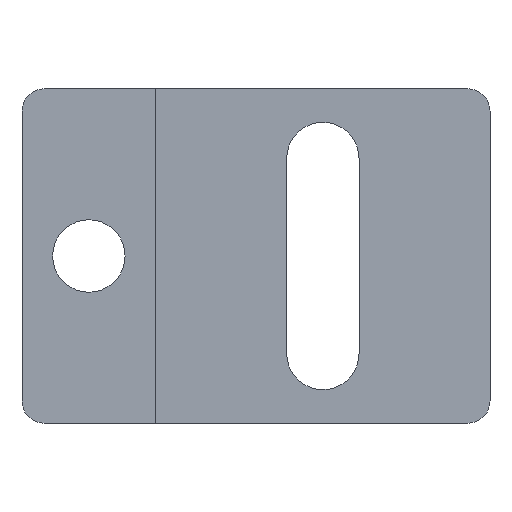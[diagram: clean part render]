
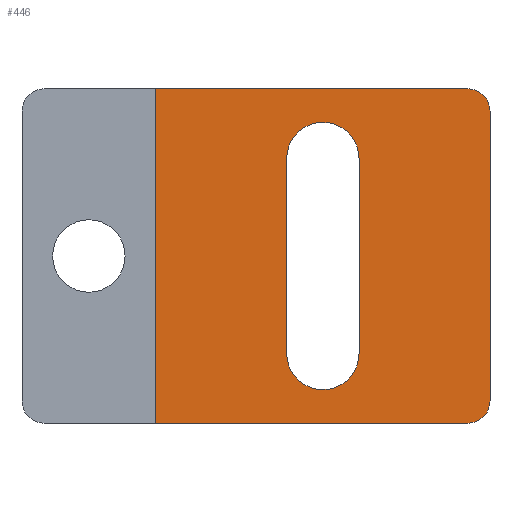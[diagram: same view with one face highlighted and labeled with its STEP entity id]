
A CAD part, front view. The second image highlights one B-rep face of the part: STEP entity #446.
In plain terms, the highlighted planar face has unit normal (0, -1, 0).
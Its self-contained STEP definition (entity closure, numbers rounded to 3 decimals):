
#95=CARTESIAN_POINT('',(27.,7.,-8.75));
#96=DIRECTION('',(0.,1.,0.));
#97=DIRECTION('',(1.,0.,0.));
#98=AXIS2_PLACEMENT_3D('',#95,#96,#97);
#100=DIRECTION('',(0.,0.,-1.));
#101=VECTOR('',#100,17.5);
#102=CARTESIAN_POINT('',(30.25,7.,8.75));
#103=LINE('',#102,#101);
#104=CARTESIAN_POINT('',(27.,7.,8.75));
#105=DIRECTION('',(0.,1.,0.));
#106=DIRECTION('',(-1.,0.,0.));
#107=AXIS2_PLACEMENT_3D('',#104,#105,#106);
#109=DIRECTION('',(0.,0.,1.));
#110=VECTOR('',#109,17.5);
#111=CARTESIAN_POINT('',(23.75,7.,-8.75));
#112=LINE('',#111,#110);
#126=CARTESIAN_POINT('',(40.,7.,13.));
#127=DIRECTION('',(0.,-1.,0.));
#128=DIRECTION('',(1.,0.,0.));
#129=AXIS2_PLACEMENT_3D('',#126,#127,#128);
#131=DIRECTION('',(-1.,0.,0.));
#132=VECTOR('',#131,28.);
#133=CARTESIAN_POINT('',(40.,7.,15.));
#134=LINE('',#133,#132);
#139=DIRECTION('',(0.,0.,-1.));
#140=VECTOR('',#139,30.);
#141=CARTESIAN_POINT('',(12.,7.,15.));
#142=LINE('',#141,#140);
#147=DIRECTION('',(-1.,0.,0.));
#148=VECTOR('',#147,28.);
#149=CARTESIAN_POINT('',(40.,7.,-15.));
#150=LINE('',#149,#148);
#164=CARTESIAN_POINT('',(40.,7.,-13.));
#165=DIRECTION('',(0.,-1.,0.));
#166=DIRECTION('',(0.,0.,-1.));
#167=AXIS2_PLACEMENT_3D('',#164,#165,#166);
#169=DIRECTION('',(0.,0.,-1.));
#170=VECTOR('',#169,26.);
#171=CARTESIAN_POINT('',(42.,7.,13.));
#172=LINE('',#171,#170);
#213=CARTESIAN_POINT('',(12.,7.,15.));
#214=VERTEX_POINT('',#213);
#215=CARTESIAN_POINT('',(12.,7.,-15.));
#216=VERTEX_POINT('',#215);
#233=CARTESIAN_POINT('',(30.25,7.,-8.75));
#234=CARTESIAN_POINT('',(23.75,7.,-8.75));
#235=VERTEX_POINT('',#233);
#236=VERTEX_POINT('',#234);
#237=CARTESIAN_POINT('',(23.75,7.,8.75));
#238=VERTEX_POINT('',#237);
#239=CARTESIAN_POINT('',(30.25,7.,8.75));
#240=VERTEX_POINT('',#239);
#242=CARTESIAN_POINT('',(40.,7.,15.));
#244=VERTEX_POINT('',#242);
#247=CARTESIAN_POINT('',(42.,7.,13.));
#248=VERTEX_POINT('',#247);
#250=CARTESIAN_POINT('',(42.,7.,-13.));
#252=VERTEX_POINT('',#250);
#255=CARTESIAN_POINT('',(40.,7.,-15.));
#256=VERTEX_POINT('',#255);
#421=CARTESIAN_POINT('',(42.,7.,15.));
#422=DIRECTION('',(0.,1.,0.));
#423=DIRECTION('',(-1.,0.,0.));
#424=AXIS2_PLACEMENT_3D('',#421,#422,#423);
#425=PLANE('',#424);
#427=ORIENTED_EDGE('',*,*,#426,.F.);
#429=ORIENTED_EDGE('',*,*,#428,.T.);
#431=ORIENTED_EDGE('',*,*,#430,.F.);
#433=ORIENTED_EDGE('',*,*,#432,.T.);
#435=ORIENTED_EDGE('',*,*,#434,.F.);
#437=ORIENTED_EDGE('',*,*,#436,.F.);
#438=EDGE_LOOP('',(#427,#429,#431,#433,#435,#437));
#439=FACE_OUTER_BOUND('',#438,.F.);
#440=ORIENTED_EDGE('',*,*,#373,.F.);
#441=ORIENTED_EDGE('',*,*,#388,.F.);
#442=ORIENTED_EDGE('',*,*,#402,.F.);
#443=ORIENTED_EDGE('',*,*,#415,.F.);
#444=EDGE_LOOP('',(#440,#441,#442,#443));
#445=FACE_BOUND('',#444,.F.);
#446=ADVANCED_FACE('',(#439,#445),#425,.F.);
#99=CIRCLE('',#98,3.25);
#108=CIRCLE('',#107,3.25);
#130=CIRCLE('',#129,2.);
#168=CIRCLE('',#167,2.);
#373=EDGE_CURVE('',#235,#236,#99,.T.);
#388=EDGE_CURVE('',#240,#235,#103,.T.);
#402=EDGE_CURVE('',#238,#240,#108,.T.);
#415=EDGE_CURVE('',#236,#238,#112,.T.);
#426=EDGE_CURVE('',#248,#244,#130,.T.);
#428=EDGE_CURVE('',#248,#252,#172,.T.);
#430=EDGE_CURVE('',#256,#252,#168,.T.);
#432=EDGE_CURVE('',#256,#216,#150,.T.);
#434=EDGE_CURVE('',#214,#216,#142,.T.);
#436=EDGE_CURVE('',#244,#214,#134,.T.);
